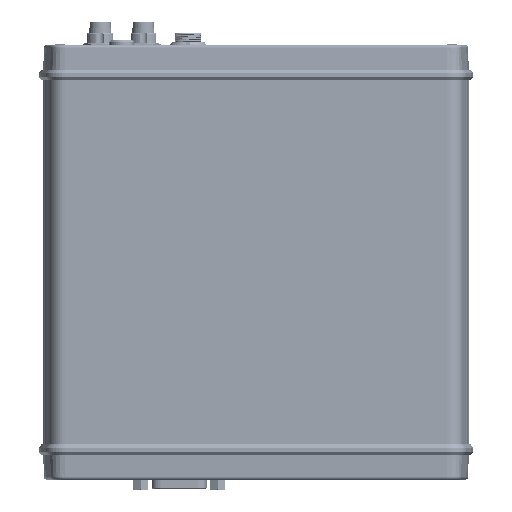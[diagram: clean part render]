
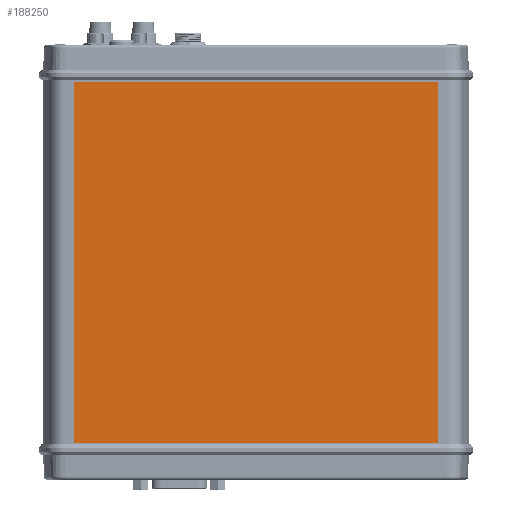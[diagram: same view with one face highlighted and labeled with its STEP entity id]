
A CAD part, front view. The second image highlights one B-rep face of the part: STEP entity #188250.
In plain terms, the highlighted planar face has unit normal (0, -1, 0).
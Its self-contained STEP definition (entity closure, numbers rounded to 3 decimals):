
#12870=FACE_OUTER_BOUND('',#23163,.T.);
#23163=EDGE_LOOP('',(#139376,#139377,#139378,#139379));
#41375=LINE('',#317448,#59511);
#41377=LINE('',#317452,#59513);
#41379=LINE('',#317456,#59515);
#41381=LINE('',#317459,#59517);
#59511=VECTOR('',#229975,10.);
#59513=VECTOR('',#229979,10.);
#59515=VECTOR('',#229983,10.);
#59517=VECTOR('',#229987,10.);
#78775=VERTEX_POINT('',#317445);
#78776=VERTEX_POINT('',#317447);
#78777=VERTEX_POINT('',#317451);
#78778=VERTEX_POINT('',#317455);
#100333=EDGE_CURVE('',#78776,#78775,#41375,.T.);
#100335=EDGE_CURVE('',#78777,#78776,#41377,.T.);
#100337=EDGE_CURVE('',#78778,#78777,#41379,.T.);
#100339=EDGE_CURVE('',#78775,#78778,#41381,.T.);
#139376=ORIENTED_EDGE('',*,*,#100339,.T.);
#139377=ORIENTED_EDGE('',*,*,#100337,.T.);
#139378=ORIENTED_EDGE('',*,*,#100335,.T.);
#139379=ORIENTED_EDGE('',*,*,#100333,.T.);
#171127=PLANE('',#200785);
#188250=ADVANCED_FACE('',(#12870),#171127,.T.);
#200785=AXIS2_PLACEMENT_3D('',#317460,#229988,#229989);
#229975=DIRECTION('',(-1.,0.,0.));
#229979=DIRECTION('',(0.,0.,1.));
#229983=DIRECTION('',(1.,0.,0.));
#229987=DIRECTION('',(0.,0.,-1.));
#229988=DIRECTION('center_axis',(0.,-1.,0.));
#229989=DIRECTION('ref_axis',(1.,0.,0.));
#317445=CARTESIAN_POINT('',(-59.,-15.755,73.5));
#317447=CARTESIAN_POINT('',(59.,-15.755,73.5));
#317448=CARTESIAN_POINT('',(59.,-15.755,73.5));
#317451=CARTESIAN_POINT('',(59.,-15.755,-43.5));
#317452=CARTESIAN_POINT('',(59.,-15.755,-43.5));
#317455=CARTESIAN_POINT('',(-59.,-15.755,-43.5));
#317456=CARTESIAN_POINT('',(-59.,-15.755,-43.5));
#317459=CARTESIAN_POINT('',(-59.,-15.755,73.5));
#317460=CARTESIAN_POINT('Origin',(0.,-15.755,
15.));
